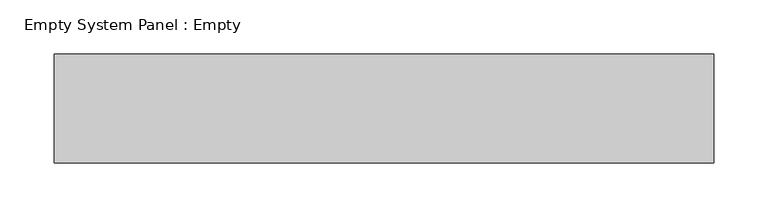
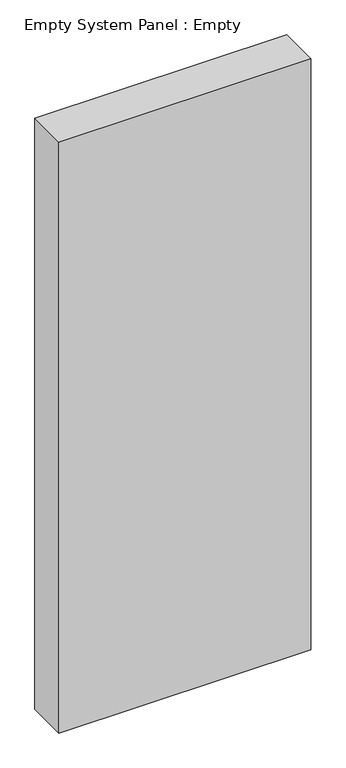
"""IFC4 building model written with IfcOpenShell, lengths in millimetres: plate geometry, Empty System Panel : Empty."""

from ifc_helpers import new_model, si_unit, origin, origin_with_axes, place, context, project, spatial, polyline, outline, extrude, source, transform, mapped, element, save


def empty_system_panel_empty_1e4b9aef(model_context):
    return source(origin(), model_context, "Body", "SweptSolid", [
        extrude(outline(polyline([(302.5, 50.0), (-302.5, 50.0), (-302.5, 150.0), (302.5, 150.0), (302.5, 50.0)])), origin_with_axes(), (0.0, 0.0, 1.0), 1500.0),
    ])


if __name__ == "__main__":
    model = new_model("IFC4")
    model_context = context("Model", 3, world=origin())
    ifc_project = project(units=[si_unit("LENGTHUNIT", "METRE", prefix="MILLI")], contexts=[model_context])
    site = spatial("IfcSite", under=ifc_project)
    building = spatial("IfcBuilding", under=site)
    placement = place(None, origin())
    empty_system_panel_empty_shape = empty_system_panel_empty_1e4b9aef(model_context)
    element("IfcPlate", 1, ObjectType="Empty System Panel : Empty", at=placement, inside=building, context=model_context, shape_type="MappedRepresentation", body=[
        mapped(empty_system_panel_empty_shape, transform((0.0, 0.0, 0.0), x_axis=(1.0, 0.0, 0.0), y_axis=(0.0, 1.0, 0.0), z_axis=(0.0, 0.0, 1.0))),
    ])
    save(model, "model.ifc")
